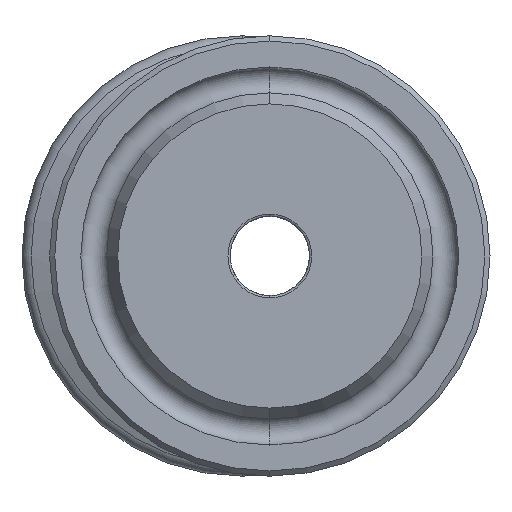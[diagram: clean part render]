
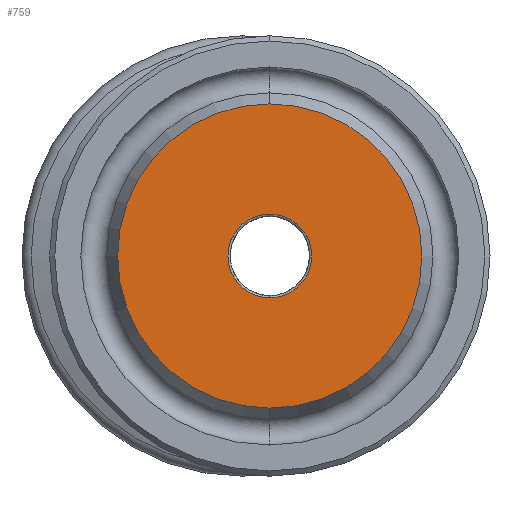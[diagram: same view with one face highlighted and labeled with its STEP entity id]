
A CAD part, left-side view. The second image highlights one B-rep face of the part: STEP entity #759.
In plain terms, the highlighted planar face has unit normal (-1, 0, 0).
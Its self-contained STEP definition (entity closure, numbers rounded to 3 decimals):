
#108 = DIRECTION ( 'NONE',  ( 1., 0., 0. ) ) ;
#139 = CIRCLE ( 'NONE', #1536, 8.772 ) ;
#140 = VERTEX_POINT ( 'NONE', #359 ) ;
#194 = CARTESIAN_POINT ( 'NONE',  ( 0.8, -1.589, 0. ) ) ;
#215 = EDGE_CURVE ( 'NONE', #832, #609, #139, .T. ) ;
#279 = CARTESIAN_POINT ( 'NONE',  ( 0.8, -1.589, 0. ) ) ;
#287 = DIRECTION ( 'NONE',  ( 1., 0., 0. ) ) ;
#292 = DIRECTION ( 'NONE',  ( 0., 0., -1. ) ) ;
#359 = CARTESIAN_POINT ( 'NONE',  ( 0.8, -1.589, -2.413 ) ) ;
#396 = CARTESIAN_POINT ( 'NONE',  ( 0.8, 7.183, 0. ) ) ;
#419 = DIRECTION ( 'NONE',  ( 1., 0., 0. ) ) ;
#434 = ORIENTED_EDGE ( 'NONE', *, *, #954, .T. ) ;
#504 = EDGE_LOOP ( 'NONE', ( #665, #906 ) ) ;
#562 = EDGE_CURVE ( 'NONE', #609, #832, #1958, .T. ) ;
#595 = AXIS2_PLACEMENT_3D ( 'NONE', #1780, #1307, #1435 ) ;
#609 = VERTEX_POINT ( 'NONE', #1592 ) ;
#614 = ORIENTED_EDGE ( 'NONE', *, *, #896, .T. ) ;
#665 = ORIENTED_EDGE ( 'NONE', *, *, #562, .F. ) ;
#698 = DIRECTION ( 'NONE',  ( 1., 0., 0. ) ) ;
#759 = ADVANCED_FACE ( 'NONE', ( #1993, #790 ), #1971, .F. ) ;
#775 = EDGE_LOOP ( 'NONE', ( #614, #434 ) ) ;
#790 = FACE_OUTER_BOUND ( 'NONE', #504, .T. ) ;
#832 = VERTEX_POINT ( 'NONE', #1447 ) ;
#856 = CARTESIAN_POINT ( 'NONE',  ( 0.8, -1.589, 2.413 ) ) ;
#896 = EDGE_CURVE ( 'NONE', #140, #1481, #2036, .T. ) ;
#906 = ORIENTED_EDGE ( 'NONE', *, *, #215, .F. ) ;
#911 = AXIS2_PLACEMENT_3D ( 'NONE', #279, #287, #292 ) ;
#954 = EDGE_CURVE ( 'NONE', #1481, #140, #1167, .T. ) ;
#1167 = CIRCLE ( 'NONE', #911, 2.413 ) ;
#1170 = AXIS2_PLACEMENT_3D ( 'NONE', #194, #108, #1656 ) ;
#1238 = CARTESIAN_POINT ( 'NONE',  ( 0.8, -1.589, 0. ) ) ;
#1307 = DIRECTION ( 'NONE',  ( 1., 0., 0. ) ) ;
#1435 = DIRECTION ( 'NONE',  ( 0., 0., -1. ) ) ;
#1447 = CARTESIAN_POINT ( 'NONE',  ( 0.8, -1.589, 8.772 ) ) ;
#1481 = VERTEX_POINT ( 'NONE', #856 ) ;
#1496 = AXIS2_PLACEMENT_3D ( 'NONE', #396, #419, #1543 ) ;
#1536 = AXIS2_PLACEMENT_3D ( 'NONE', #1238, #698, #1815 ) ;
#1543 = DIRECTION ( 'NONE',  ( 0., 0., -1. ) ) ;
#1592 = CARTESIAN_POINT ( 'NONE',  ( 0.8, -1.589, -8.772 ) ) ;
#1656 = DIRECTION ( 'NONE',  ( 0., 0., -1. ) ) ;
#1780 = CARTESIAN_POINT ( 'NONE',  ( 0.8, -1.589, 0. ) ) ;
#1815 = DIRECTION ( 'NONE',  ( 0., 0., -1. ) ) ;
#1958 = CIRCLE ( 'NONE', #1170, 8.772 ) ;
#1971 = PLANE ( 'NONE',  #1496 ) ;
#1993 = FACE_BOUND ( 'NONE', #775, .T. ) ;
#2036 = CIRCLE ( 'NONE', #595, 2.413 ) ;
